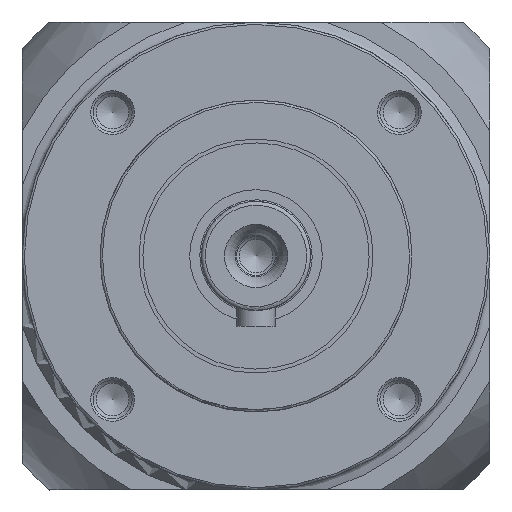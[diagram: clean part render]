
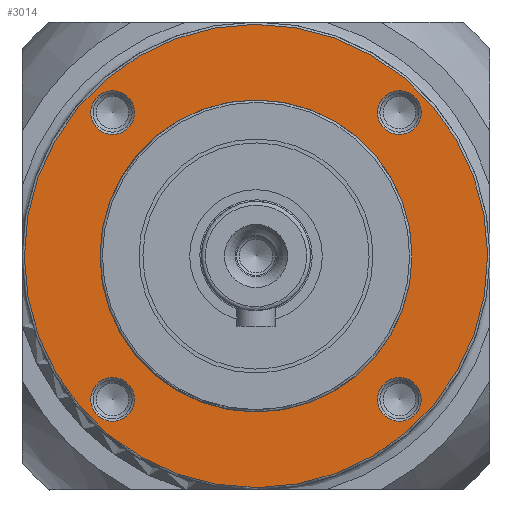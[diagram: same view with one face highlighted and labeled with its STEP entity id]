
A CAD part, left-side view. The second image highlights one B-rep face of the part: STEP entity #3014.
In plain terms, the highlighted planar face has unit normal (-1, 0, 0).
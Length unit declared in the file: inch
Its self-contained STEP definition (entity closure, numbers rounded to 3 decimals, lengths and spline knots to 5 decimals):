
#204=FACE_BOUND('',#535,.T.);
#205=FACE_BOUND('',#536,.T.);
#206=FACE_BOUND('',#537,.T.);
#207=FACE_BOUND('',#538,.T.);
#208=FACE_BOUND('',#539,.T.);
#245=PLANE('',#3248);
#335=FACE_OUTER_BOUND('',#534,.T.);
#534=EDGE_LOOP('',(#2074));
#535=EDGE_LOOP('',(#2075));
#536=EDGE_LOOP('',(#2076));
#537=EDGE_LOOP('',(#2077));
#538=EDGE_LOOP('',(#2078));
#539=EDGE_LOOP('',(#2079));
#1083=CIRCLE('',#3238,1.16929);
#1089=CIRCLE('',#3249,0.11023);
#1090=CIRCLE('',#3250,0.11023);
#1091=CIRCLE('',#3251,0.11023);
#1092=CIRCLE('',#3252,0.7874);
#1093=CIRCLE('',#3253,0.11023);
#1289=VERTEX_POINT('',#4603);
#1293=VERTEX_POINT('',#4619);
#1294=VERTEX_POINT('',#4621);
#1295=VERTEX_POINT('',#4623);
#1296=VERTEX_POINT('',#4625);
#1297=VERTEX_POINT('',#4627);
#1597=EDGE_CURVE('',#1289,#1289,#1083,.T.);
#1604=EDGE_CURVE('',#1293,#1293,#1089,.T.);
#1605=EDGE_CURVE('',#1294,#1294,#1090,.T.);
#1606=EDGE_CURVE('',#1295,#1295,#1091,.T.);
#1607=EDGE_CURVE('',#1296,#1296,#1092,.T.);
#1608=EDGE_CURVE('',#1297,#1297,#1093,.T.);
#2074=ORIENTED_EDGE('',*,*,#1597,.F.);
#2075=ORIENTED_EDGE('',*,*,#1604,.T.);
#2076=ORIENTED_EDGE('',*,*,#1605,.T.);
#2077=ORIENTED_EDGE('',*,*,#1606,.T.);
#2078=ORIENTED_EDGE('',*,*,#1607,.F.);
#2079=ORIENTED_EDGE('',*,*,#1608,.T.);
#3014=ADVANCED_FACE('',(#335,#204,#205,#206,#207,#208),#245,.T.);
#3238=AXIS2_PLACEMENT_3D('',#4604,#3647,#3648);
#3248=AXIS2_PLACEMENT_3D('',#4618,#3668,#3669);
#3249=AXIS2_PLACEMENT_3D('',#4620,#3670,#3671);
#3250=AXIS2_PLACEMENT_3D('',#4622,#3672,#3673);
#3251=AXIS2_PLACEMENT_3D('',#4624,#3674,#3675);
#3252=AXIS2_PLACEMENT_3D('',#4626,#3676,#3677);
#3253=AXIS2_PLACEMENT_3D('',#4628,#3678,#3679);
#3647=DIRECTION('center_axis',(1.,0.,0.));
#3648=DIRECTION('ref_axis',(0.,-1.,0.));
#3668=DIRECTION('center_axis',(-1.,0.,0.));
#3669=DIRECTION('ref_axis',(0.,1.,0.));
#3670=DIRECTION('center_axis',(1.,0.,0.));
#3671=DIRECTION('ref_axis',(0.,0.,-1.));
#3672=DIRECTION('center_axis',(1.,0.,0.));
#3673=DIRECTION('ref_axis',(0.,0.,-1.));
#3674=DIRECTION('center_axis',(1.,0.,0.));
#3675=DIRECTION('ref_axis',(0.,0.,-1.));
#3676=DIRECTION('center_axis',(-1.,0.,0.));
#3677=DIRECTION('ref_axis',(0.,1.,0.));
#3678=DIRECTION('center_axis',(1.,0.,0.));
#3679=DIRECTION('ref_axis',(0.,0.,-1.));
#4603=CARTESIAN_POINT('',(0.,1.16928,-0.00535));
#4604=CARTESIAN_POINT('Origin',(0.,0.,0.));
#4618=CARTESIAN_POINT('Origin',(0.,0.,0.));
#4619=CARTESIAN_POINT('',(0.,0.72381,-0.61358));
#4620=CARTESIAN_POINT('Origin',(0.,0.72381,-0.72381));
#4621=CARTESIAN_POINT('',(0.,-0.72381,-0.61358));
#4622=CARTESIAN_POINT('Origin',(0.,-0.72381,-0.72381));
#4623=CARTESIAN_POINT('',(0.,-0.72381,0.83404));
#4624=CARTESIAN_POINT('Origin',(0.,-0.72381,0.72381));
#4625=CARTESIAN_POINT('',(0.,-0.78736,-0.00802));
#4626=CARTESIAN_POINT('Origin',(0.,0.,0.));
#4627=CARTESIAN_POINT('',(0.,0.72381,0.83404));
#4628=CARTESIAN_POINT('Origin',(0.,0.72381,0.72381));
